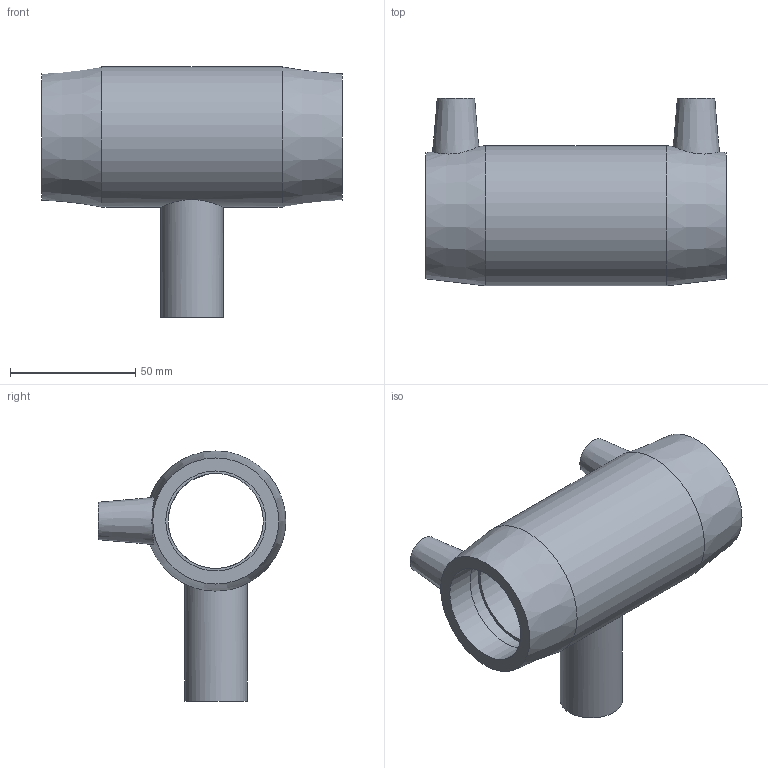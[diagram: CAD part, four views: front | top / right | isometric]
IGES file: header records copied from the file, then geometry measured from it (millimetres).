
Global section: file name: 491404040025.ipt; native system: Autodesk Inventor 2015; preprocessor: unknown; author: KIM; date: 20190909.112820; units: millimetre
Bounding box: 120 x 75 x 100 mm (x, y, z)
Volume: 149088.7 mm3; surface area: 47267.8 mm2
Topology: 1 solids, 1 shells, 31 faces, 72 edges, 52 vertices
Faces by surface type: plane 13, revolution 10, cylinder 4, cone 4
Full cylindrical faces by diameter (mm): 4 x2, 25 x1, 56 x1
